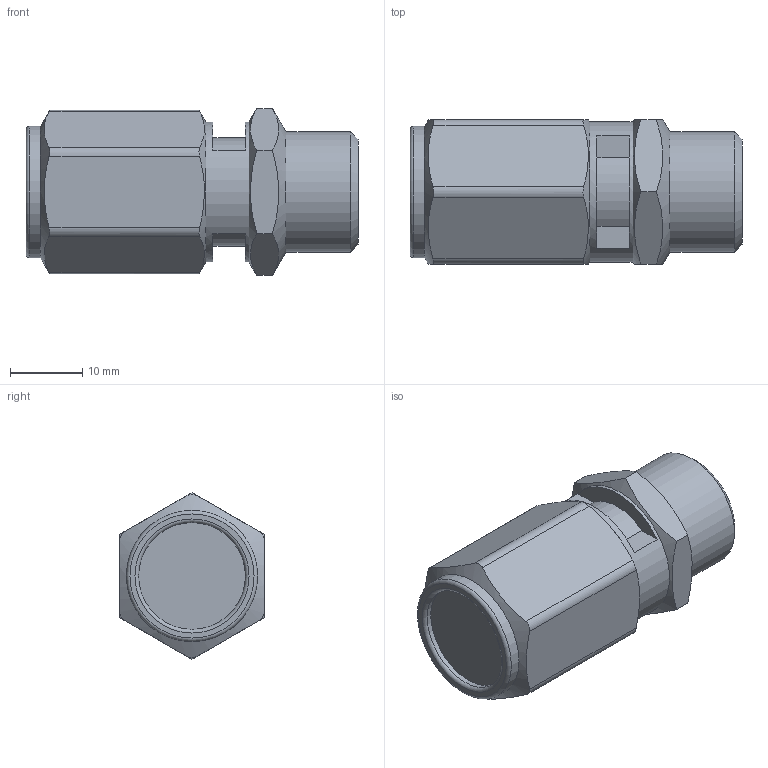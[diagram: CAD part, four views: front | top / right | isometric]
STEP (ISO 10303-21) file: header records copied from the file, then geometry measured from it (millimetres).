
FILE_DESCRIPTION(/* description */ (''),/* implementation_level */ '2;1');
FILE_NAME(/* name */ 'S:\_Tecnico\ArchivioUT\_Disegni3D ingombri\DISEGNI 3D per ingombri\RV\RV101238.stp',/* time_stamp */ '2020-10-30T12:02:52+01:00',/* author */ ('UfficioTecnico'),/* organization */ (''),/* preprocessor_version */ 'ST-DEVELOPER v18',/* originating_system */ 'Autodesk Inventor 2020',/* authorisation */ '');
FILE_SCHEMA (('AUTOMOTIVE_DESIGN { 1 0 10303 214 3 1 1 }'));
Length unit declared in the file: millimetre
Products named in the file (1): RV101238
Bounding box: 46 x 20 x 23.09 mm (x, y, z)
Volume: 12301.9 mm3; surface area: 4133.6 mm2
Topology: 1 solids, 1 shells, 45 faces, 123 edges, 84 vertices
Faces by surface type: plane 24, cylinder 13, cone 6, torus 2
Full cylindrical faces by diameter (mm): 10 x1, 14.8 x1, 16.662 x1, 18.2 x1, 19.4 x1
Entity records: 1544 total; most frequent: CARTESIAN_POINT 411, ORIENTED_EDGE 246, DIRECTION 217, EDGE_CURVE 123, AXIS2_PLACEMENT_3D 86, VERTEX_POINT 84, EDGE_LOOP 49, LINE 45
